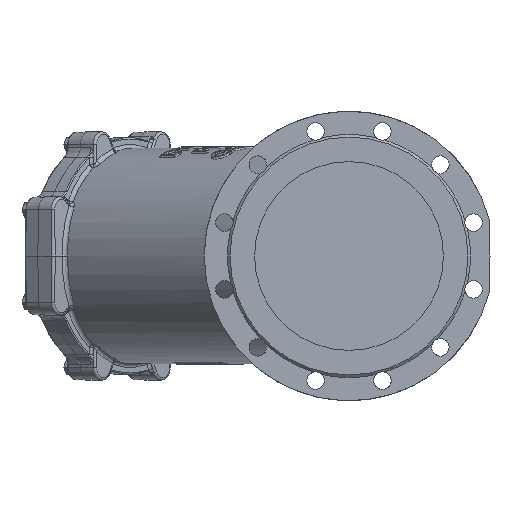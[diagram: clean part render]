
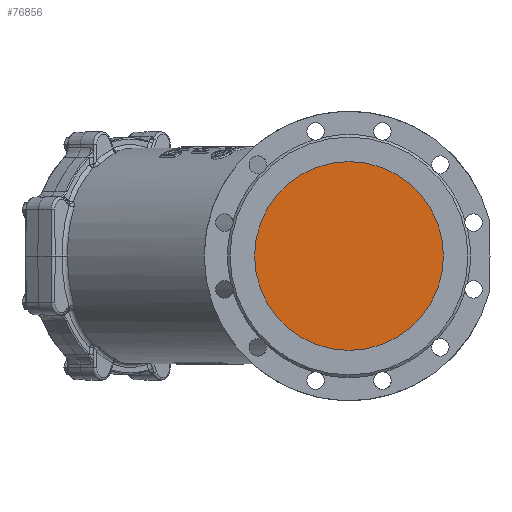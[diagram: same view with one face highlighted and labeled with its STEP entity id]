
A CAD part, left-side view. The second image highlights one B-rep face of the part: STEP entity #76856.
In plain terms, the highlighted planar face has unit normal (-1, 0, 0).
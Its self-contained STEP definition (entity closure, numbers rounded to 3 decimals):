
#24161 = FACE_OUTER_BOUND ( 'NONE', #94529, .T. ) ;
#26589 = CARTESIAN_POINT ( 'NONE',  ( -336.821, 0., 0. ) ) ;
#27779 = DIRECTION ( 'NONE',  ( -1., 0., 0. ) ) ;
#43623 = ORIENTED_EDGE ( 'NONE', *, *, #60821, .F. ) ;
#50839 = CARTESIAN_POINT ( 'NONE',  ( -336.821, 0., 0. ) ) ;
#55638 = DIRECTION ( 'NONE',  ( 0., 0., 1. ) ) ;
#57753 = AXIS2_PLACEMENT_3D ( 'NONE', #50839, #88974, #71779 ) ;
#60821 = EDGE_CURVE ( 'NONE', #108510, #108510, #61753, .T. ) ;
#61753 = CIRCLE ( 'NONE', #57753, 150. ) ;
#71779 = DIRECTION ( 'NONE',  ( 0., 0., 1. ) ) ;
#76856 = ADVANCED_FACE ( 'NONE', ( #24161 ), #91965, .T. ) ;
#79571 = CARTESIAN_POINT ( 'NONE',  ( -336.821, 0., 150. ) ) ;
#88974 = DIRECTION ( 'NONE',  ( 1., 0., 0. ) ) ;
#91965 = PLANE ( 'NONE',  #113299 ) ;
#94529 = EDGE_LOOP ( 'NONE', ( #43623 ) ) ;
#108510 = VERTEX_POINT ( 'NONE', #79571 ) ;
#113299 = AXIS2_PLACEMENT_3D ( 'NONE', #26589, #27779, #55638 ) ;
